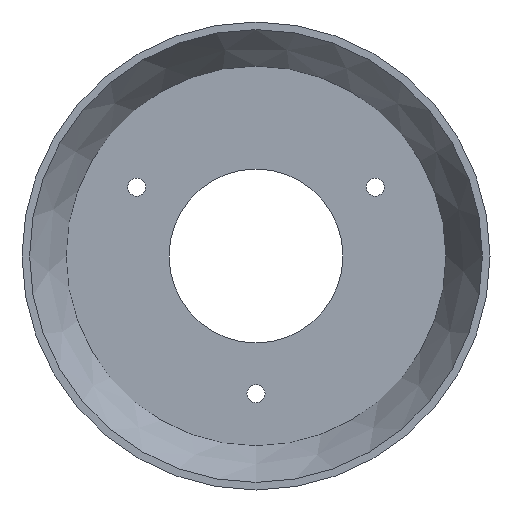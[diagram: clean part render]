
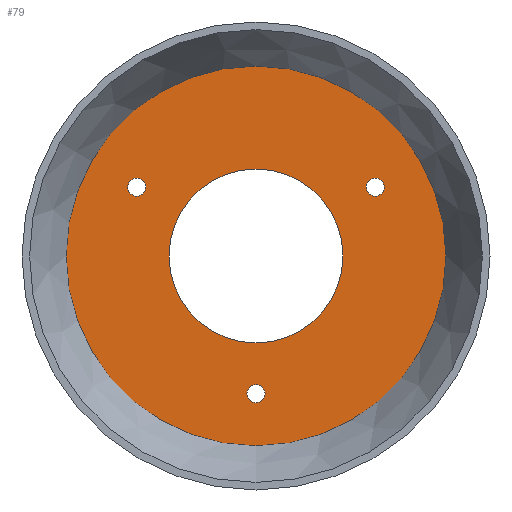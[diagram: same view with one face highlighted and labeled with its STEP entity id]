
A CAD part, front view. The second image highlights one B-rep face of the part: STEP entity #79.
In plain terms, the highlighted planar face has unit normal (0, -1, 0).
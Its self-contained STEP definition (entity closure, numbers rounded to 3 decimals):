
#79 = ADVANCED_FACE( '', ( #97, #98, #99, #100, #101 ), #102, .T. );
#97 = FACE_OUTER_BOUND( '', #130, .T. );
#98 = FACE_BOUND( '', #131, .T. );
#99 = FACE_BOUND( '', #132, .T. );
#100 = FACE_BOUND( '', #133, .T. );
#101 = FACE_BOUND( '', #134, .T. );
#102 = PLANE( '', #135 );
#130 = EDGE_LOOP( '', ( #171 ) );
#131 = EDGE_LOOP( '', ( #172 ) );
#132 = EDGE_LOOP( '', ( #173 ) );
#133 = EDGE_LOOP( '', ( #174 ) );
#134 = EDGE_LOOP( '', ( #175 ) );
#135 = AXIS2_PLACEMENT_3D( '', #176, #177, #178 );
#171 = ORIENTED_EDGE( '', *, *, #205, .T. );
#172 = ORIENTED_EDGE( '', *, *, #208, .T. );
#173 = ORIENTED_EDGE( '', *, *, #209, .T. );
#174 = ORIENTED_EDGE( '', *, *, #210, .T. );
#175 = ORIENTED_EDGE( '', *, *, #206, .F. );
#176 = CARTESIAN_POINT( '', ( 13., 10., 0. ) );
#177 = DIRECTION( '', ( 0., -1., 0. ) );
#178 = DIRECTION( '', ( 0., 0., -1. ) );
#205 = EDGE_CURVE( '', #220, #220, #221, .T. );
#206 = EDGE_CURVE( '', #222, #222, #223, .T. );
#208 = EDGE_CURVE( '', #226, #226, #227, .F. );
#209 = EDGE_CURVE( '', #228, #228, #229, .F. );
#210 = EDGE_CURVE( '', #230, #230, #231, .F. );
#220 = VERTEX_POINT( '', #244 );
#221 = CIRCLE( '', #245, 28.406 );
#222 = VERTEX_POINT( '', #246 );
#223 = CIRCLE( '', #247, 13. );
#226 = VERTEX_POINT( '', #250 );
#227 = CIRCLE( '', #251, 1.35 );
#228 = VERTEX_POINT( '', #252 );
#229 = CIRCLE( '', #253, 1.35 );
#230 = VERTEX_POINT( '', #254 );
#231 = CIRCLE( '', #255, 1.35 );
#244 = CARTESIAN_POINT( '', ( 0., 10., -28.406 ) );
#245 = AXIS2_PLACEMENT_3D( '', #271, #272, #273 );
#246 = CARTESIAN_POINT( '', ( 0., 10., -13. ) );
#247 = AXIS2_PLACEMENT_3D( '', #274, #275, #276 );
#250 = CARTESIAN_POINT( '', ( 0., 10., -21.95 ) );
#251 = AXIS2_PLACEMENT_3D( '', #280, #281, #282 );
#252 = CARTESIAN_POINT( '', ( -17.84, 10., 8.95 ) );
#253 = AXIS2_PLACEMENT_3D( '', #283, #284, #285 );
#254 = CARTESIAN_POINT( '', ( 17.84, 10., 8.95 ) );
#255 = AXIS2_PLACEMENT_3D( '', #286, #287, #288 );
#271 = CARTESIAN_POINT( '', ( 0., 10., 0. ) );
#272 = DIRECTION( '', ( 0., -1., 0. ) );
#273 = DIRECTION( '', ( 0., 0., -1. ) );
#274 = CARTESIAN_POINT( '', ( 0., 10., 0. ) );
#275 = DIRECTION( '', ( 0., -1., 0. ) );
#276 = DIRECTION( '', ( 0., 0., -1. ) );
#280 = CARTESIAN_POINT( '', ( 0., 10., -20.6 ) );
#281 = DIRECTION( '', ( 0., -1., 0. ) );
#282 = DIRECTION( '', ( 0., 0., -1. ) );
#283 = CARTESIAN_POINT( '', ( -17.84, 10., 10.3 ) );
#284 = DIRECTION( '', ( 0., -1., 0. ) );
#285 = DIRECTION( '', ( 0., 0., -1. ) );
#286 = CARTESIAN_POINT( '', ( 17.84, 10., 10.3 ) );
#287 = DIRECTION( '', ( 0., -1., 0. ) );
#288 = DIRECTION( '', ( 0., 0., -1. ) );
